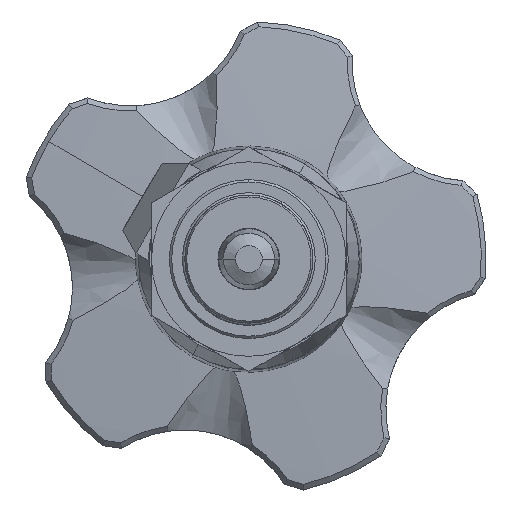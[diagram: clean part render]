
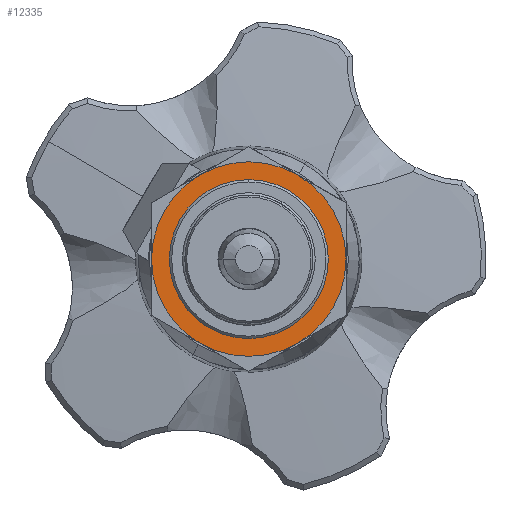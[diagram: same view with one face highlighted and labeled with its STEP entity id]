
A CAD part, front view. The second image highlights one B-rep face of the part: STEP entity #12335.
In plain terms, the highlighted planar face has unit normal (0, -1, 0).
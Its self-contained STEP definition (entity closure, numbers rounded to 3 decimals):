
#5 = AXIS2_PLACEMENT_3D ( 'NONE', #32219, #15369, #35055 ) ;
#176 = PLANE ( 'NONE',  #21131 ) ;
#297 = DIRECTION ( 'NONE',  ( 0., 1., 0. ) ) ;
#1528 = VERTEX_POINT ( 'NONE', #11063 ) ;
#2151 = CARTESIAN_POINT ( 'NONE',  ( 0., -7.5, 0. ) ) ;
#4979 = DIRECTION ( 'NONE',  ( 0., 0., -1. ) ) ;
#5909 = VERTEX_POINT ( 'NONE', #25823 ) ;
#6919 = CARTESIAN_POINT ( 'NONE',  ( 0., -7.5, -20.5 ) ) ;
#7014 = AXIS2_PLACEMENT_3D ( 'NONE', #2151, #21885, #4979 ) ;
#7155 = EDGE_CURVE ( 'NONE', #14021, #10840, #28034, .T. ) ;
#10840 = VERTEX_POINT ( 'NONE', #33125 ) ;
#11033 = CARTESIAN_POINT ( 'NONE',  ( 0., -7.5, 0. ) ) ;
#11063 = CARTESIAN_POINT ( 'NONE',  ( 0., -7.5, 16.1 ) ) ;
#12335 = ADVANCED_FACE ( 'NONE', ( #28122, #21534 ), #176, .F. ) ;
#12592 = ORIENTED_EDGE ( 'NONE', *, *, #15095, .T. ) ;
#13886 = DIRECTION ( 'NONE',  ( 0., 0., -1. ) ) ;
#14021 = VERTEX_POINT ( 'NONE', #6919 ) ;
#14136 = EDGE_CURVE ( 'NONE', #5909, #1528, #32611, .T. ) ;
#14554 = DIRECTION ( 'NONE',  ( 0., -1., 0. ) ) ;
#15095 = EDGE_CURVE ( 'NONE', #10840, #14021, #21059, .T. ) ;
#15369 = DIRECTION ( 'NONE',  ( 0., -1., 0. ) ) ;
#17100 = ORIENTED_EDGE ( 'NONE', *, *, #34344, .F. ) ;
#17177 = CARTESIAN_POINT ( 'NONE',  ( 0., -7.5, -31.843 ) ) ;
#18400 = EDGE_LOOP ( 'NONE', ( #28929, #12592 ) ) ;
#19997 = DIRECTION ( 'NONE',  ( 0., 0., 1. ) ) ;
#21059 = CIRCLE ( 'NONE', #33541, 20.5 ) ;
#21131 = AXIS2_PLACEMENT_3D ( 'NONE', #17177, #297, #19997 ) ;
#21534 = FACE_OUTER_BOUND ( 'NONE', #18400, .T. ) ;
#21885 = DIRECTION ( 'NONE',  ( 0., -1., 0. ) ) ;
#22380 = EDGE_LOOP ( 'NONE', ( #17100, #25424 ) ) ;
#22443 = AXIS2_PLACEMENT_3D ( 'NONE', #11033, #30751, #13886 ) ;
#25424 = ORIENTED_EDGE ( 'NONE', *, *, #14136, .F. ) ;
#25823 = CARTESIAN_POINT ( 'NONE',  ( 0., -7.5, -16.1 ) ) ;
#28034 = CIRCLE ( 'NONE', #22443, 20.5 ) ;
#28122 = FACE_BOUND ( 'NONE', #22380, .T. ) ;
#28929 = ORIENTED_EDGE ( 'NONE', *, *, #7155, .T. ) ;
#30751 = DIRECTION ( 'NONE',  ( 0., -1., 0. ) ) ;
#31425 = CARTESIAN_POINT ( 'NONE',  ( 0., -7.5, 0. ) ) ;
#32219 = CARTESIAN_POINT ( 'NONE',  ( 0., -7.5, 0. ) ) ;
#32611 = CIRCLE ( 'NONE', #5, 16.1 ) ;
#33125 = CARTESIAN_POINT ( 'NONE',  ( 0., -7.5, 20.5 ) ) ;
#33541 = AXIS2_PLACEMENT_3D ( 'NONE', #31425, #14554, #34269 ) ;
#34269 = DIRECTION ( 'NONE',  ( 0., 0., -1. ) ) ;
#34344 = EDGE_CURVE ( 'NONE', #1528, #5909, #35735, .T. ) ;
#35055 = DIRECTION ( 'NONE',  ( 0., 0., -1. ) ) ;
#35735 = CIRCLE ( 'NONE', #7014, 16.1 ) ;
